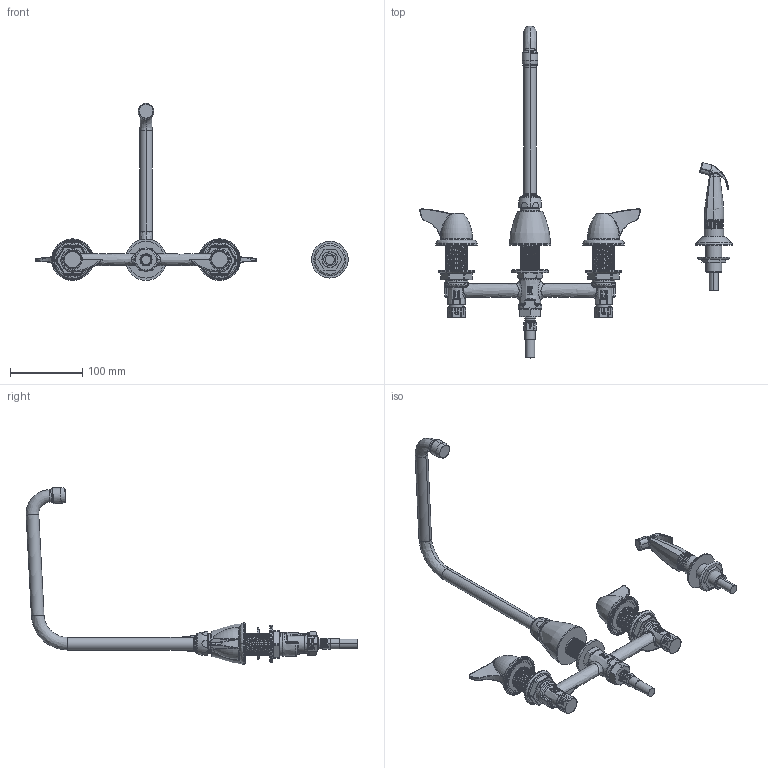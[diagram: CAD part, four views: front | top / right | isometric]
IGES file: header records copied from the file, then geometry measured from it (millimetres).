
Start section:  PTC IGES file: 200-AHA8-1000XK.igs
Global section: file name: 200-AHA8-1000XK.igs; native system: Creo Parametric by PTC Inc.; preprocessor: 2017260; author: usch_engrender; organization: Unknown; date: 20180601.114715; units: inch
Bounding box: 431.8 x 458.37 x 244.7 mm (x, y, z)
Surface area: 168595.7 mm2 (no closed solid volume)
Topology: 0 solids, 91 shells, 1249 faces, 3523 edges, 2314 vertices
Faces by surface type: revolution 701, bspline 543, extrusion 5
